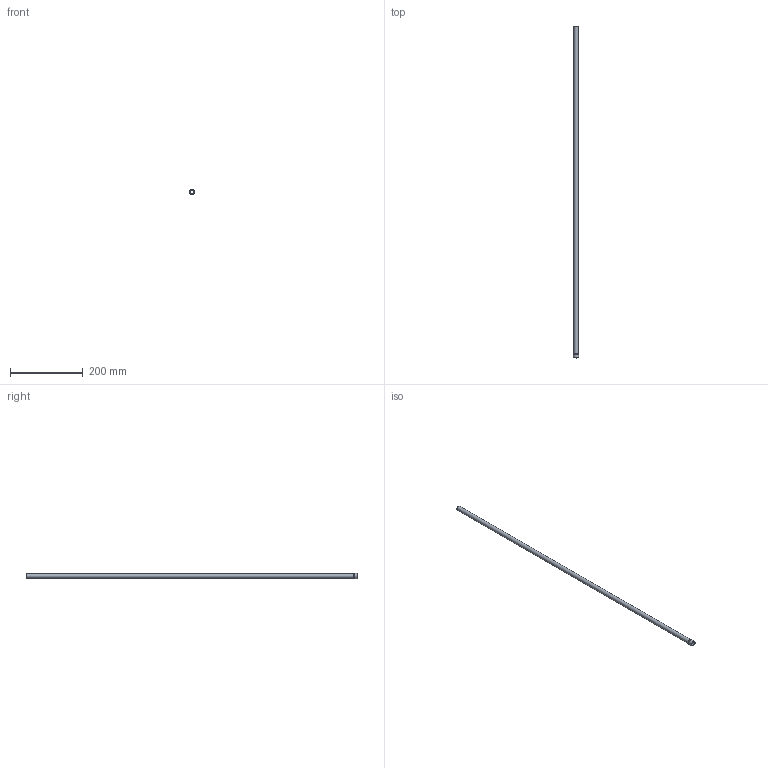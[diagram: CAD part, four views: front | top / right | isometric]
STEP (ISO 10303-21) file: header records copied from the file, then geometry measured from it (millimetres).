
FILE_DESCRIPTION(/* description */ (''),/* implementation_level */ '2;1');
FILE_NAME(/* name */ 'C:/Users/drich/Desktop/HF500T-36 v1.step',/* time_stamp */ '2019-12-30T13:34:50-06:00',/* author */ (''),/* organization */ (''),/* preprocessor_version */ 'ST-DEVELOPER v18',/* originating_system */ 'Autodesk Translation Framework v8.12.0.6',/* authorisation */ '');
FILE_SCHEMA (('AUTOMOTIVE_DESIGN { 1 0 10303 214 3 1 1 }'));
Length unit declared in the file: inch
Products named in the file (1): HF500T-36
Bounding box: 14.33 x 914.4 x 14.33 mm (x, y, z)
Volume: 24913 mm3; surface area: 69046.2 mm2
Topology: 1 solids, 1 shells, 12 faces, 30 edges, 22 vertices
Faces by surface type: plane 4, cylinder 4, torus 3, cone 1
Full cylindrical faces by diameter (mm): 11.278 x1, 12.7 x1, 14.143 x1, 14.326 x1
Entity records: 426 total; most frequent: DIRECTION 81, CARTESIAN_POINT 65, ORIENTED_EDGE 60, AXIS2_PLACEMENT_3D 38, EDGE_CURVE 30, CIRCLE 25, VERTEX_POINT 22, EDGE_LOOP 16
